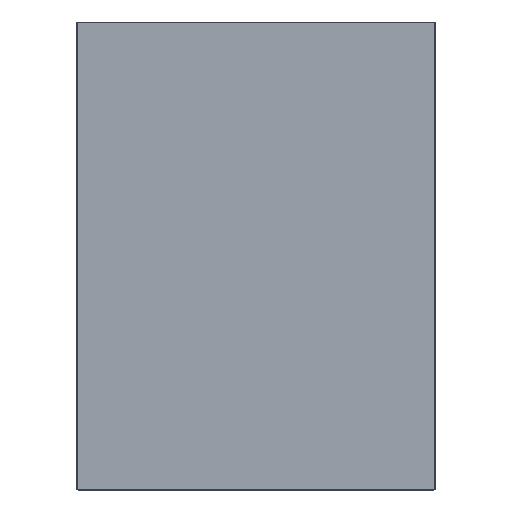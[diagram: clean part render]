
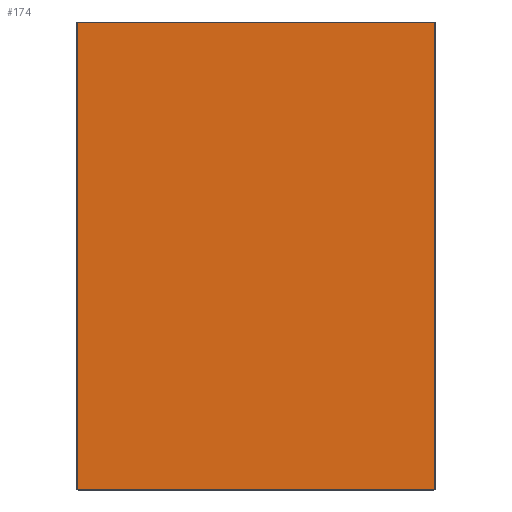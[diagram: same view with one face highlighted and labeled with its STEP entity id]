
A CAD part, top view. The second image highlights one B-rep face of the part: STEP entity #174.
In plain terms, the highlighted planar face has unit normal (0, 0, 1).
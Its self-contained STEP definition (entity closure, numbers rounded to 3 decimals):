
#106=AXIS2_PLACEMENT_3D('Plane Axis2P3D',#103,#104,#105) ;
#119=AXIS2_PLACEMENT_3D('Circle Axis2P3D',#117,#118,$) ;
#133=AXIS2_PLACEMENT_3D('Circle Axis2P3D',#131,#132,$) ;
#147=AXIS2_PLACEMENT_3D('Circle Axis2P3D',#145,#146,$) ;
#161=AXIS2_PLACEMENT_3D('Circle Axis2P3D',#159,#160,$) ;
#103=CARTESIAN_POINT('Axis2P3D Location',(0.,0.,4.)) ;
#108=CARTESIAN_POINT('Line Origine',(0.,-249.5,4.)) ;
#112=CARTESIAN_POINT('Vertex',(190.5,-249.5,4.)) ;
#114=CARTESIAN_POINT('Vertex',(-190.5,-249.5,4.)) ;
#117=CARTESIAN_POINT('Axis2P3D Location',(190.5,-249.,4.)) ;
#121=CARTESIAN_POINT('Vertex',(191.,-249.,4.)) ;
#124=CARTESIAN_POINT('Line Origine',(191.,0.,4.)) ;
#128=CARTESIAN_POINT('Vertex',(191.,249.,4.)) ;
#131=CARTESIAN_POINT('Axis2P3D Location',(190.5,249.,4.)) ;
#135=CARTESIAN_POINT('Vertex',(190.5,249.5,4.)) ;
#138=CARTESIAN_POINT('Line Origine',(0.,249.5,4.)) ;
#142=CARTESIAN_POINT('Vertex',(-190.5,249.5,4.)) ;
#145=CARTESIAN_POINT('Axis2P3D Location',(-190.5,249.,4.)) ;
#149=CARTESIAN_POINT('Vertex',(-191.,249.,4.)) ;
#152=CARTESIAN_POINT('Line Origine',(-191.,0.,4.)) ;
#156=CARTESIAN_POINT('Vertex',(-191.,-249.,4.)) ;
#159=CARTESIAN_POINT('Axis2P3D Location',(-190.5,-249.,4.)) ;
#104=DIRECTION('Axis2P3D Direction',(0.,0.,1.)) ;
#105=DIRECTION('Axis2P3D XDirection',(1.,0.,0.)) ;
#109=DIRECTION('Vector Direction',(-1.,0.,0.)) ;
#118=DIRECTION('Axis2P3D Direction',(0.,0.,1.)) ;
#125=DIRECTION('Vector Direction',(0.,1.,0.)) ;
#132=DIRECTION('Axis2P3D Direction',(0.,0.,1.)) ;
#139=DIRECTION('Vector Direction',(1.,0.,0.)) ;
#146=DIRECTION('Axis2P3D Direction',(0.,0.,1.)) ;
#153=DIRECTION('Vector Direction',(0.,-1.,0.)) ;
#160=DIRECTION('Axis2P3D Direction',(0.,0.,1.)) ;
#110=VECTOR('Line Direction',#109,1.) ;
#126=VECTOR('Line Direction',#125,1.) ;
#140=VECTOR('Line Direction',#139,1.) ;
#154=VECTOR('Line Direction',#153,1.) ;
#165=ORIENTED_EDGE('',*,*,#116,.F.) ;
#166=ORIENTED_EDGE('',*,*,#123,.T.) ;
#167=ORIENTED_EDGE('',*,*,#130,.T.) ;
#168=ORIENTED_EDGE('',*,*,#137,.T.) ;
#169=ORIENTED_EDGE('',*,*,#144,.F.) ;
#170=ORIENTED_EDGE('',*,*,#151,.T.) ;
#171=ORIENTED_EDGE('',*,*,#158,.T.) ;
#172=ORIENTED_EDGE('',*,*,#163,.T.) ;
#174=ADVANCED_FACE('Glas Kochfeld(fl\X2\00E4\X0\chenb\X2\00FC\X0\ndig)',(#173),#107,.T.) ;
#120=CIRCLE('generated circle',#119,0.5) ;
#134=CIRCLE('generated circle',#133,0.5) ;
#148=CIRCLE('generated circle',#147,0.5) ;
#162=CIRCLE('generated circle',#161,0.5) ;
#116=EDGE_CURVE('',#113,#115,#111,.T.) ;
#123=EDGE_CURVE('',#113,#122,#120,.T.) ;
#130=EDGE_CURVE('',#122,#129,#127,.T.) ;
#137=EDGE_CURVE('',#129,#136,#134,.T.) ;
#144=EDGE_CURVE('',#143,#136,#141,.T.) ;
#151=EDGE_CURVE('',#143,#150,#148,.T.) ;
#158=EDGE_CURVE('',#150,#157,#155,.T.) ;
#163=EDGE_CURVE('',#157,#115,#162,.T.) ;
#164=EDGE_LOOP('',(#165,#166,#167,#168,#169,#170,#171,#172)) ;
#173=FACE_OUTER_BOUND('',#164,.T.) ;
#111=LINE('Line',#108,#110) ;
#127=LINE('Line',#124,#126) ;
#141=LINE('Line',#138,#140) ;
#155=LINE('Line',#152,#154) ;
#107=PLANE('',#106) ;
#113=VERTEX_POINT('',#112) ;
#115=VERTEX_POINT('',#114) ;
#122=VERTEX_POINT('',#121) ;
#129=VERTEX_POINT('',#128) ;
#136=VERTEX_POINT('',#135) ;
#143=VERTEX_POINT('',#142) ;
#150=VERTEX_POINT('',#149) ;
#157=VERTEX_POINT('',#156) ;
